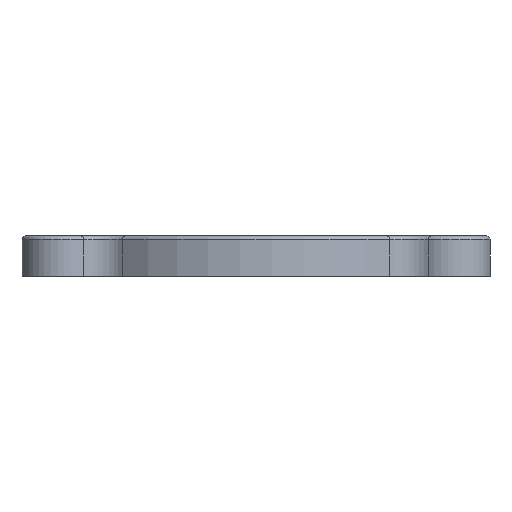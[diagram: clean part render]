
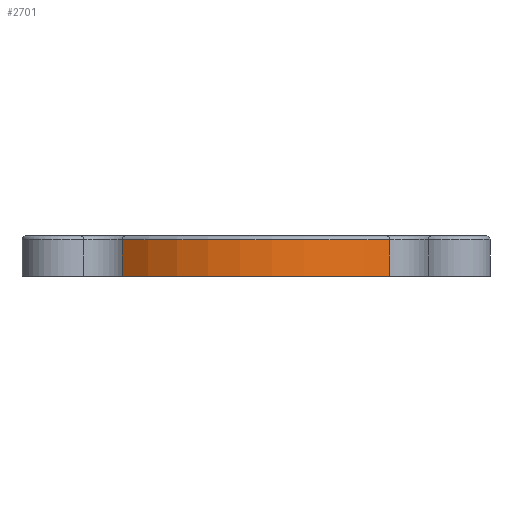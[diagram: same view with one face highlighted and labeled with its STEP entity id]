
A CAD part, front view. The second image highlights one B-rep face of the part: STEP entity #2701.
In plain terms, the highlighted cylindrical face has radius 12.5 mm (diameter 25 mm), a partial arc.
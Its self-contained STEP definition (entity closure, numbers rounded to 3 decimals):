
#31=CYLINDRICAL_SURFACE('',#2855,12.5);
#73=CIRCLE('',#2807,12.5);
#104=CIRCLE('',#2849,12.5);
#308=FACE_OUTER_BOUND('',#476,.T.);
#476=EDGE_LOOP('',(#2434,#2435,#2436,#2437));
#669=LINE('',#5348,#862);
#670=LINE('',#5349,#863);
#862=VECTOR('',#3302,1.);
#863=VECTOR('',#3303,1.);
#1265=VERTEX_POINT('',#5275);
#1266=VERTEX_POINT('',#5277);
#1284=VERTEX_POINT('',#5330);
#1286=VERTEX_POINT('',#5338);
#1640=EDGE_CURVE('',#1266,#1265,#73,.T.);
#1671=EDGE_CURVE('',#1284,#1286,#104,.T.);
#1675=EDGE_CURVE('',#1266,#1284,#669,.T.);
#1676=EDGE_CURVE('',#1286,#1265,#670,.T.);
#2434=ORIENTED_EDGE('',*,*,#1671,.F.);
#2435=ORIENTED_EDGE('',*,*,#1675,.F.);
#2436=ORIENTED_EDGE('',*,*,#1640,.T.);
#2437=ORIENTED_EDGE('',*,*,#1676,.F.);
#2701=ADVANCED_FACE('',(#308),#31,.T.);
#2807=AXIS2_PLACEMENT_3D('',#5278,#3204,#3205);
#2849=AXIS2_PLACEMENT_3D('',#5340,#3288,#3289);
#2855=AXIS2_PLACEMENT_3D('',#5347,#3300,#3301);
#3204=DIRECTION('center_axis',(0.,0.,1.));
#3205=DIRECTION('ref_axis',(1.,0.,0.));
#3288=DIRECTION('center_axis',(0.,0.,1.));
#3289=DIRECTION('ref_axis',(0.,-1.,0.));
#3300=DIRECTION('center_axis',(0.,0.,1.));
#3301=DIRECTION('ref_axis',(1.,0.,0.));
#3302=DIRECTION('',(0.,0.,1.));
#3303=DIRECTION('',(0.,0.,-1.));
#5275=CARTESIAN_POINT('',(8.355,-9.298,0.));
#5277=CARTESIAN_POINT('',(-8.355,-9.298,0.));
#5278=CARTESIAN_POINT('Origin',(0.,0.,0.));
#5330=CARTESIAN_POINT('',(-8.355,-9.298,2.25));
#5338=CARTESIAN_POINT('',(8.355,-9.298,2.25));
#5340=CARTESIAN_POINT('Origin',(0.,0.,2.25));
#5347=CARTESIAN_POINT('Origin',(0.,0.,0.));
#5348=CARTESIAN_POINT('',(-8.355,-9.298,0.));
#5349=CARTESIAN_POINT('',(8.355,-9.298,0.));
